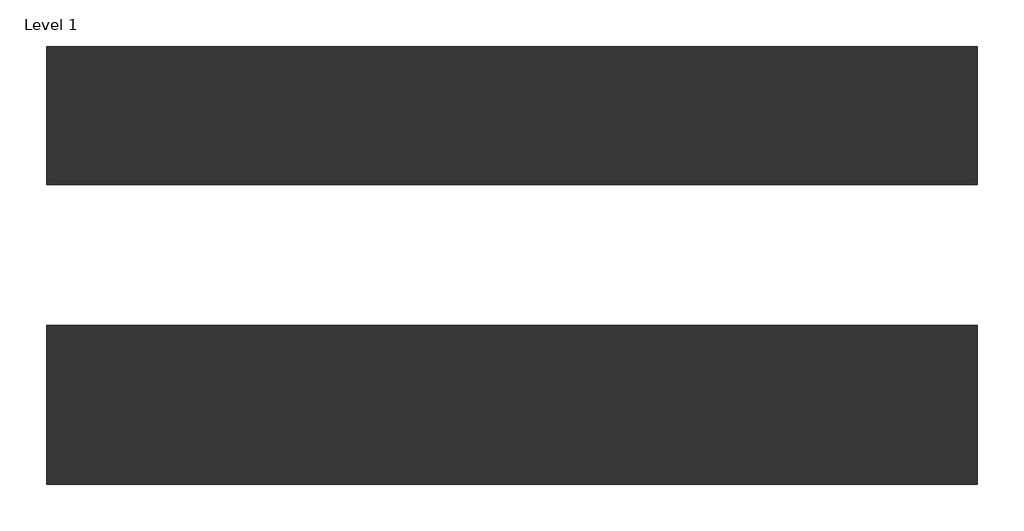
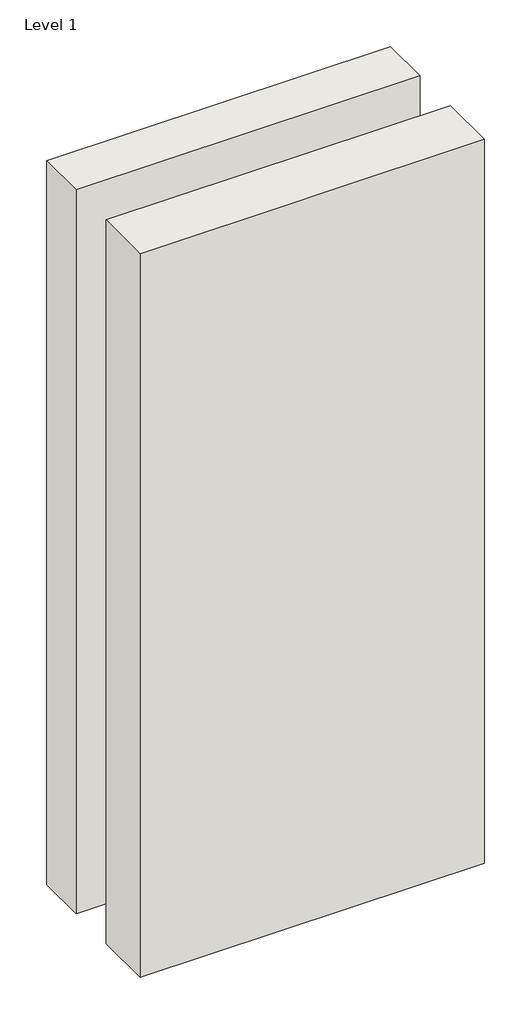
# One storey: 2 walls.
"""IFC4 building model written with IfcOpenShell, lengths in millimetres."""

from ifc_helpers import new_model, si_unit, origin, origin_with_axes, place, context, project, spatial, polyline, outline, extrude, element, save

model = new_model("IFC4")

# Units and contexts
model_context = context("Model", 3, world=origin())
ifc_project = project(units=[si_unit("LENGTHUNIT", "METRE", prefix="MILLI")], contexts=[model_context])

# Site, building, storey
site = spatial("IfcSite", under=ifc_project)
building = spatial("IfcBuilding", under=site)
storey = spatial("IfcBuildingStorey", under=building, Name="Level 1", Elevation=0.0)

# Walls
placement = place(None, origin())
element("IfcWall", 1, ObjectType="Interior-Timber Frame-Party Wall with 41mm Fire Barrier-CSR2482-267mm", at=placement, inside=storey, context=model_context, shape_type="SweptSolid", body=[
    extrude(outline(polyline([(1209.1027791, -2883.0592728), (3009.1027791, -2883.0592728), (3009.1027791, -3150.0592728), (1209.1027791, -3150.0592728), (1209.1027791, -2883.0592728)])), origin_with_axes(), (0.0, 0.0, 1.0), 4000.0),
])
element("IfcWall", 2, ObjectType="Interior-Timber Frame-Party Wall with 41mm Fire Barrier-CSR2482-307mm", at=placement, inside=storey, context=model_context, shape_type="SweptSolid", body=[
    extrude(outline(polyline([(1209.1027791, -3423.0592728), (3009.1027791, -3423.0592728), (3009.1027791, -3730.0592728), (1209.1027791, -3730.0592728), (1209.1027791, -3423.0592728)])), origin_with_axes(), (0.0, 0.0, 1.0), 4000.0),
])

save(model, "model.ifc")
